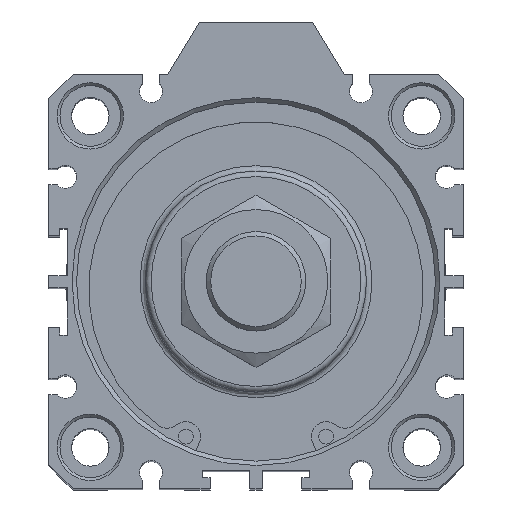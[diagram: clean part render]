
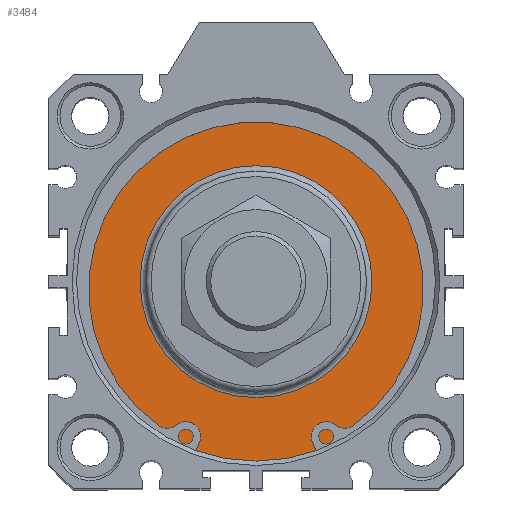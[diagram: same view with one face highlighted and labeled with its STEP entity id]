
A CAD part, top view. The second image highlights one B-rep face of the part: STEP entity #3484.
In plain terms, the highlighted planar face has unit normal (0, 0, 1).
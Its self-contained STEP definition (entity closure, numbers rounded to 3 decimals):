
#3433=CARTESIAN_POINT('',(2.99,22.555,127.3));
#3434=VERTEX_POINT('',#3433);
#3435=CARTESIAN_POINT('',(2.99,1.555,127.3));
#3436=DIRECTION('',(0.0,0.0,1.0));
#3437=DIRECTION('',(0.0,-1.0,0.0));
#3438=AXIS2_PLACEMENT_3D('',#3435,#3436,#3437);
#3439=CIRCLE('',#3438,21.);
#3440=EDGE_CURVE('',#3434,#3434,#3439,.T.);
#3465=CARTESIAN_POINT('',(2.99,27.805,127.3));
#3466=DIRECTION('',(0.0,0.0,1.0));
#3467=DIRECTION('',(1.0,0.0,0.0));
#3468=AXIS2_PLACEMENT_3D('',#3465,#3466,#3467);
#3469=PLANE('',#3468);
#3470=CARTESIAN_POINT('',(2.99,34.055,127.3));
#3471=VERTEX_POINT('',#3470);
#3472=CARTESIAN_POINT('',(2.99,1.555,127.3));
#3473=DIRECTION('',(0.0,0.0,-1.0));
#3474=DIRECTION('',(0.0,1.0,0.0));
#3475=AXIS2_PLACEMENT_3D('',#3472,#3473,#3474);
#3476=CIRCLE('',#3475,32.5);
#3477=EDGE_CURVE('',#3471,#3471,#3476,.T.);
#3478=ORIENTED_EDGE('',*,*,#3477,.F.);
#3479=EDGE_LOOP('',(#3478));
#3480=FACE_OUTER_BOUND('',#3479,.T.);
#3481=ORIENTED_EDGE('',*,*,#3440,.F.);
#3482=EDGE_LOOP('',(#3481));
#3483=FACE_BOUND('',#3482,.T.);
#3484=ADVANCED_FACE('',(#3480,#3483),#3469,.T.);
